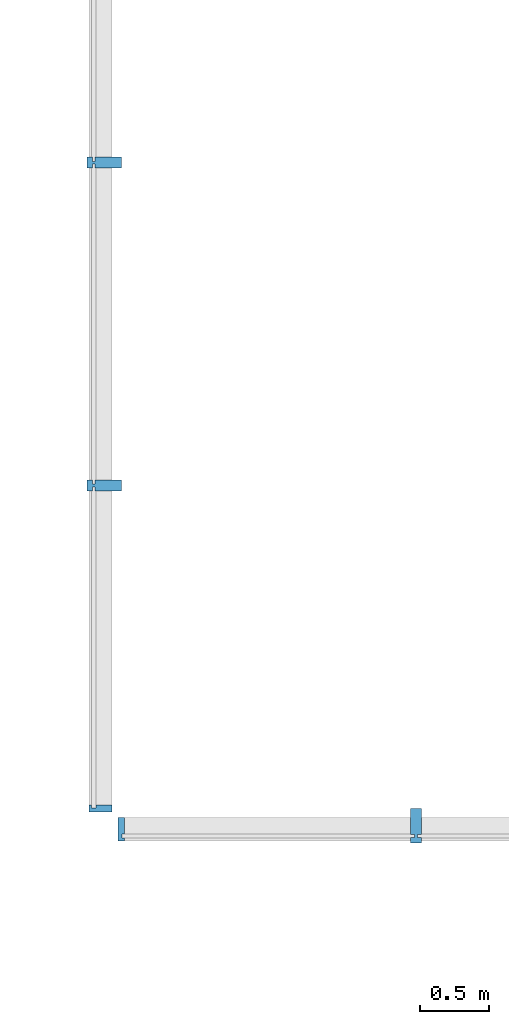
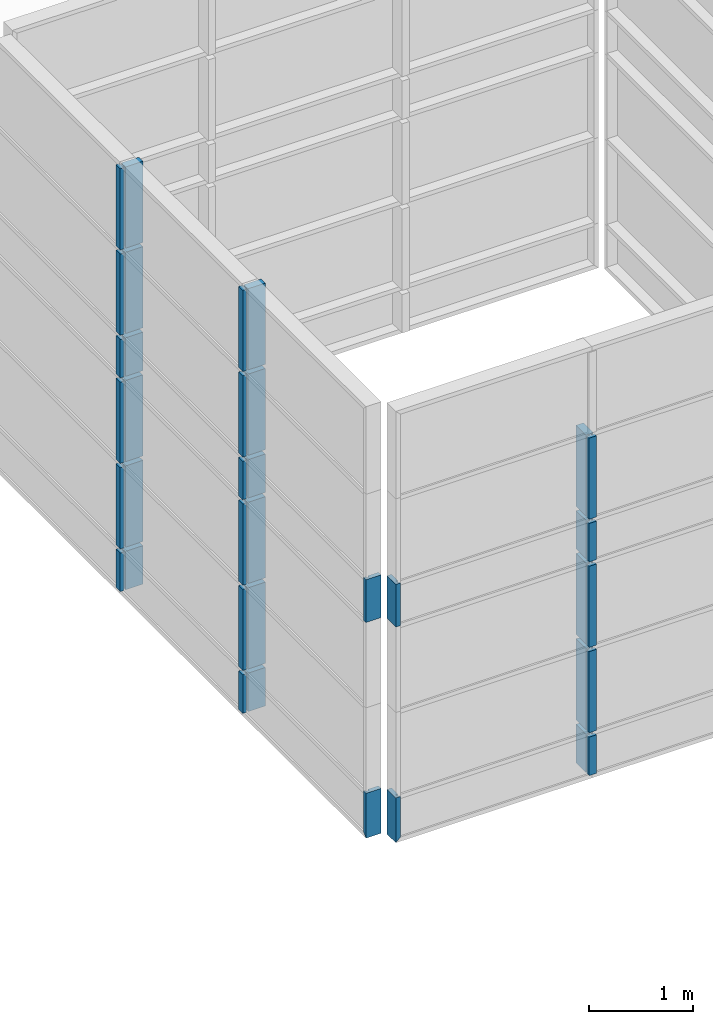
# One storey, part 13 of 19: 21 building element parts, 2 elements without a shape of their own.
"""IFC4 building model written with IfcOpenShell, lengths in millimetres."""

from ifc_helpers import new_model, entity, si_unit, converted_unit, derived_unit, direction, frame, origin_with_axes, place, context, subcontext, project, spatial, triangles, material, element, aggregate, save


model = new_model("IFC4")

# Units and contexts
model_context = context("Model", 3, precision=1e-05, world=origin_with_axes(), true_north=direction((0.0, 1.0)))
body_context = subcontext(model_context, "Body", "Model", "MODEL_VIEW")
ifc_project = project(units=[si_unit("LENGTHUNIT", "METRE", prefix="MILLI"), si_unit("AREAUNIT", "SQUARE_METRE"), si_unit("VOLUMEUNIT", "CUBIC_METRE"), converted_unit("PLANEANGLEUNIT", "DEGREE", entity("IfcLengthMeasure", 0.017453), si_unit("PLANEANGLEUNIT", "RADIAN"), dimensions=[0, 0, 0, 0, 0, 0, 0]), si_unit("SOLIDANGLEUNIT", "STERADIAN"), si_unit("MASSUNIT", "GRAM"), si_unit("TIMEUNIT", "SECOND"), si_unit("THERMODYNAMICTEMPERATUREUNIT", "DEGREE_CELSIUS"), si_unit("LUMINOUSINTENSITYUNIT", "LUMEN"), si_unit("POWERUNIT", "WATT"), derived_unit("THERMALTRANSMITTANCEUNIT", [(si_unit("POWERUNIT", "WATT"), 1), (si_unit("THERMODYNAMICTEMPERATUREUNIT", "KELVIN"), -1), (si_unit("AREAUNIT", "SQUARE_METRE"), -1)])], contexts=[model_context])

# Site, building, storey
site_placement = place(None, origin_with_axes())
site = spatial("IfcSite", under=ifc_project, at=site_placement, Name="Default Site", CompositionType="ELEMENT")
building_placement = place(site_placement, origin_with_axes())
building = spatial("IfcBuilding", under=site, at=building_placement, Name="Default Building", CompositionType="ELEMENT")
storey_placement = place(building_placement, frame((0.0, 0.0, 3000.0), z_axis=(0.0, 0.0, 1.0), x_axis=(1.0, 0.0, 0.0)))
storey = spatial("IfcBuildingStorey", under=building, at=storey_placement, Name="EG - Story", CompositionType="ELEMENT", Elevation=3000.0)

# Curtain wall, building element parts
curtain_wall_1_placement = place(storey_placement, origin_with_axes())
curtain_wall_1 = element("IfcCurtainWall", 1, at=curtain_wall_1_placement, inside=storey, Name="Fassade-011", PredefinedType="NOTDEFINED")
ifc_material = material(Name="Blech")
building_element_part_1_placement = place(curtain_wall_1_placement, frame((69381.391327, -43896.324358, 0.0), z_axis=(0.0, 0.0, 1.0), x_axis=(1.0, 0.0, 0.0)))
building_element_part_1 = element("IfcBuildingElementPart", 2, at=building_element_part_1_placement, material=ifc_material, Name="Blech", PredefinedType="NOTDEFINED", context=body_context, shape_type="Tessellation", body=[
    triangles([(200.0, -1135.324, 475.0), (10.0, -1135.324, 475.0), (200.0, -1215.324, 475.0), (10.0, -1165.324, 475.0), (10.0, -1185.324, 475.0), (-9.999, -1165.324, 475.0), (-9.999, -1185.324, 475.0), (-9.999, -1215.324, 475.0), (-9.999, -1135.324, 475.0), (-49.999, -1135.324, 475.0), (-49.999, -1215.324, 475.0), (10.0, -1215.324, 475.0), (10.0, -1185.324, 25.0), (10.0, -1215.324, 25.0), (200.0, -1215.324, 25.0), (200.0, -1135.324, 25.0), (10.0, -1135.324, 25.0), (10.0, -1165.324, 25.0), (-9.999, -1165.324, 25.0), (-9.999, -1135.324, 25.0), (-49.999, -1135.324, 25.0), (-49.999, -1215.324, 25.0), (-9.999, -1215.324, 25.0), (-9.999, -1185.324, 25.0)], [[1, 2, 3], [3, 2, 4], [3, 4, 5], [5, 4, 6], [5, 6, 7], [8, 9, 10], [8, 10, 11], [3, 5, 12], [12, 5, 13], [12, 13, 14], [12, 14, 15], [12, 15, 3], [3, 15, 16], [3, 16, 1], [2, 1, 16], [2, 16, 17], [2, 17, 18], [2, 18, 4], [4, 18, 19], [4, 19, 6], [9, 6, 19], [9, 19, 20], [20, 21, 10], [20, 10, 9], [10, 21, 22], [10, 22, 11], [23, 8, 11], [23, 11, 22], [7, 8, 23], [7, 23, 24], [5, 7, 24], [5, 24, 13], [15, 14, 16], [16, 14, 13], [16, 13, 18], [18, 13, 24], [18, 24, 19], [20, 23, 22], [20, 22, 21], [16, 18, 17]], closed=False),
])
building_element_part_2_placement = place(curtain_wall_1_placement, frame((69381.391327, -43896.324358, 0.0), z_axis=(0.0, 0.0, 1.0), x_axis=(1.0, 0.0, 0.0)))
building_element_part_2 = element("IfcBuildingElementPart", 3, at=building_element_part_2_placement, material=ifc_material, Name="Blech", PredefinedType="NOTDEFINED", context=body_context, shape_type="Tessellation", body=[
    triangles([(15.0, -5851.623, 500.0), (133.0, -5851.623, 500.0), (15.0, -5871.623, 500.0), (133.0, -5901.623, 500.0), (-14.999, -5871.623, 500.0), (-34.999, -5901.623, 500.0), (-14.999, -5851.623, 500.0), (-34.999, -5851.623, 500.0), (15.0, -5871.623, 5.0), (-14.999, -5871.623, 5.0), (-14.999, -5851.623, 25.0), (-34.999, -5851.623, 25.0), (-34.999, -5901.623, -24.999), (133.0, -5901.623, -24.999), (133.0, -5851.623, 25.0), (15.0, -5851.623, 25.0)], [[1, 2, 3], [3, 2, 4], [3, 4, 5], [5, 4, 6], [5, 6, 7], [7, 6, 8], [5, 3, 9], [5, 9, 10], [11, 7, 5], [11, 5, 10], [7, 11, 12], [7, 12, 8], [6, 8, 12], [6, 12, 13], [4, 6, 13], [4, 13, 14], [2, 4, 14], [2, 14, 15], [16, 1, 2], [16, 2, 15], [3, 1, 16], [3, 16, 9], [16, 15, 9], [9, 15, 14], [9, 14, 10], [10, 14, 13], [10, 13, 12], [10, 12, 11]], closed=False),
])
building_element_part_3_placement = place(curtain_wall_1_placement, frame((69381.391327, -43896.324358, 0.0), z_axis=(0.0, 0.0, 1.0), x_axis=(1.0, 0.0, 0.0)))
building_element_part_3 = element("IfcBuildingElementPart", 4, at=building_element_part_3_placement, material=ifc_material, Name="Blech", PredefinedType="NOTDEFINED", context=body_context, shape_type="Tessellation", body=[
    triangles([(200.0, -3485.973, 475.0), (10.0, -3485.973, 475.0), (200.0, -3565.973, 475.0), (10.0, -3515.973, 475.0), (10.0, -3535.973, 475.0), (-9.999, -3515.973, 475.0), (-9.999, -3535.973, 475.0), (-9.999, -3565.973, 475.0), (-9.999, -3485.973, 475.0), (-49.999, -3485.973, 475.0), (-49.999, -3565.973, 475.0), (10.0, -3565.973, 475.0), (10.0, -3535.973, 25.0), (10.0, -3565.973, 25.0), (200.0, -3565.973, 25.0), (200.0, -3485.973, 25.0), (10.0, -3485.973, 25.0), (10.0, -3515.973, 25.0), (-9.999, -3515.973, 25.0), (-9.999, -3485.973, 25.0), (-49.999, -3485.973, 25.0), (-49.999, -3565.973, 25.0), (-9.999, -3565.973, 25.0), (-9.999, -3535.973, 25.0)], [[1, 2, 3], [3, 2, 4], [3, 4, 5], [5, 4, 6], [5, 6, 7], [8, 9, 10], [8, 10, 11], [3, 5, 12], [12, 5, 13], [12, 13, 14], [12, 14, 15], [12, 15, 3], [3, 15, 16], [3, 16, 1], [2, 1, 16], [2, 16, 17], [2, 17, 18], [2, 18, 4], [4, 18, 19], [4, 19, 6], [9, 6, 19], [9, 19, 20], [20, 21, 10], [20, 10, 9], [10, 21, 22], [10, 22, 11], [23, 8, 11], [23, 11, 22], [7, 8, 23], [7, 23, 24], [5, 7, 24], [5, 24, 13], [15, 14, 16], [16, 14, 13], [16, 13, 18], [18, 13, 24], [18, 24, 19], [20, 23, 22], [20, 22, 21], [16, 18, 17]], closed=False),
])
building_element_part_4_placement = place(curtain_wall_1_placement, frame((69381.391327, -43896.324358, 0.0), z_axis=(0.0, 0.0, 1.0), x_axis=(1.0, 0.0, 0.0)))
building_element_part_4 = element("IfcBuildingElementPart", 5, at=building_element_part_4_placement, material=ifc_material, Name="Blech", PredefinedType="NOTDEFINED", context=body_context, shape_type="Tessellation", body=[
    triangles([(200.0, -1135.324, 1475.0), (10.0, -1135.324, 1475.0), (200.0, -1215.324, 1475.0), (10.0, -1165.324, 1475.0), (10.0, -1185.324, 1475.0), (-9.999, -1165.324, 1475.0), (-9.999, -1185.324, 1475.0), (-9.999, -1215.324, 1475.0), (-9.999, -1135.324, 1475.0), (-49.999, -1135.324, 1475.0), (-49.999, -1215.324, 1475.0), (10.0, -1215.324, 1475.0), (10.0, -1185.324, 525.0), (10.0, -1215.324, 525.0), (200.0, -1215.324, 525.0), (200.0, -1135.324, 525.0), (10.0, -1135.324, 525.0), (10.0, -1165.324, 525.0), (-9.999, -1165.324, 525.0), (-9.999, -1135.324, 525.0), (-49.999, -1135.324, 525.0), (-49.999, -1215.324, 525.0), (-9.999, -1215.324, 525.0), (-9.999, -1185.324, 525.0)], [[1, 2, 3], [3, 2, 4], [3, 4, 5], [5, 4, 6], [5, 6, 7], [8, 9, 10], [8, 10, 11], [3, 5, 12], [12, 5, 13], [12, 13, 14], [12, 14, 15], [12, 15, 3], [3, 15, 16], [3, 16, 1], [2, 1, 16], [2, 16, 17], [2, 17, 18], [2, 18, 4], [4, 18, 19], [4, 19, 6], [9, 6, 19], [9, 19, 20], [20, 21, 10], [20, 10, 9], [10, 21, 22], [10, 22, 11], [23, 8, 11], [23, 11, 22], [7, 8, 23], [7, 23, 24], [5, 7, 24], [5, 24, 13], [15, 14, 16], [16, 14, 13], [16, 13, 18], [18, 13, 24], [18, 24, 19], [20, 23, 22], [20, 22, 21], [16, 18, 17]], closed=False),
])
building_element_part_5_placement = place(curtain_wall_1_placement, frame((69381.391327, -43896.324358, 0.0), z_axis=(0.0, 0.0, 1.0), x_axis=(1.0, 0.0, 0.0)))
building_element_part_5 = element("IfcBuildingElementPart", 6, at=building_element_part_5_placement, material=ifc_material, Name="Blech", PredefinedType="NOTDEFINED", context=body_context, shape_type="Tessellation", body=[
    triangles([(200.0, -3485.973, 1475.0), (10.0, -3485.973, 1475.0), (200.0, -3565.973, 1475.0), (10.0, -3515.973, 1475.0), (10.0, -3535.973, 1475.0), (-9.999, -3515.973, 1475.0), (-9.999, -3535.973, 1475.0), (-9.999, -3565.973, 1475.0), (-9.999, -3485.973, 1475.0), (-49.999, -3485.973, 1475.0), (-49.999, -3565.973, 1475.0), (10.0, -3565.973, 1475.0), (10.0, -3535.973, 525.0), (10.0, -3565.973, 525.0), (200.0, -3565.973, 525.0), (200.0, -3485.973, 525.0), (10.0, -3485.973, 525.0), (10.0, -3515.973, 525.0), (-9.999, -3515.973, 525.0), (-9.999, -3485.973, 525.0), (-49.999, -3485.973, 525.0), (-49.999, -3565.973, 525.0), (-9.999, -3565.973, 525.0), (-9.999, -3535.973, 525.0)], [[1, 2, 3], [3, 2, 4], [3, 4, 5], [5, 4, 6], [5, 6, 7], [8, 9, 10], [8, 10, 11], [3, 5, 12], [12, 5, 13], [12, 13, 14], [12, 14, 15], [12, 15, 3], [3, 15, 16], [3, 16, 1], [2, 1, 16], [2, 16, 17], [2, 17, 18], [2, 18, 4], [4, 18, 19], [4, 19, 6], [9, 6, 19], [9, 19, 20], [20, 21, 10], [20, 10, 9], [10, 21, 22], [10, 22, 11], [23, 8, 11], [23, 11, 22], [7, 8, 23], [7, 23, 24], [5, 7, 24], [5, 24, 13], [15, 14, 16], [16, 14, 13], [16, 13, 18], [18, 13, 24], [18, 24, 19], [20, 23, 22], [20, 22, 21], [16, 18, 17]], closed=False),
])
building_element_part_6_placement = place(curtain_wall_1_placement, frame((69381.391327, -43896.324358, 0.0), z_axis=(0.0, 0.0, 1.0), x_axis=(1.0, 0.0, 0.0)))
building_element_part_6 = element("IfcBuildingElementPart", 7, at=building_element_part_6_placement, material=ifc_material, Name="Blech", PredefinedType="NOTDEFINED", context=body_context, shape_type="Tessellation", body=[
    triangles([(200.0, -1135.324, 2475.0), (10.0, -1135.324, 2475.0), (200.0, -1215.324, 2475.0), (10.0, -1165.324, 2475.0), (10.0, -1185.324, 2475.0), (-9.999, -1165.324, 2475.0), (-9.999, -1185.324, 2475.0), (-9.999, -1215.324, 2475.0), (-9.999, -1135.324, 2475.0), (-49.999, -1135.324, 2475.0), (-49.999, -1215.324, 2475.0), (10.0, -1215.324, 2475.0), (10.0, -1185.324, 1525.0), (10.0, -1215.324, 1525.0), (200.0, -1215.324, 1525.0), (200.0, -1135.324, 1525.0), (10.0, -1135.324, 1525.0), (10.0, -1165.324, 1525.0), (-9.999, -1165.324, 1525.0), (-9.999, -1135.324, 1525.0), (-49.999, -1135.324, 1525.0), (-49.999, -1215.324, 1525.0), (-9.999, -1215.324, 1525.0), (-9.999, -1185.324, 1525.0)], [[1, 2, 3], [3, 2, 4], [3, 4, 5], [5, 4, 6], [5, 6, 7], [8, 9, 10], [8, 10, 11], [3, 5, 12], [12, 5, 13], [12, 13, 14], [12, 14, 15], [12, 15, 3], [3, 15, 16], [3, 16, 1], [2, 1, 16], [2, 16, 17], [2, 17, 18], [2, 18, 4], [4, 18, 19], [4, 19, 6], [9, 6, 19], [9, 19, 20], [20, 21, 10], [20, 10, 9], [10, 21, 22], [10, 22, 11], [23, 8, 11], [23, 11, 22], [7, 8, 23], [7, 23, 24], [5, 7, 24], [5, 24, 13], [15, 14, 16], [16, 14, 13], [16, 13, 18], [18, 13, 24], [18, 24, 19], [20, 23, 22], [20, 22, 21], [16, 18, 17]], closed=False),
])
building_element_part_7_placement = place(curtain_wall_1_placement, frame((69381.391327, -43896.324358, 0.0), z_axis=(0.0, 0.0, 1.0), x_axis=(1.0, 0.0, 0.0)))
building_element_part_7 = element("IfcBuildingElementPart", 8, at=building_element_part_7_placement, material=ifc_material, Name="Blech", PredefinedType="NOTDEFINED", context=body_context, shape_type="Tessellation", body=[
    triangles([(200.0, -3485.973, 2475.0), (10.0, -3485.973, 2475.0), (200.0, -3565.973, 2475.0), (10.0, -3515.973, 2475.0), (10.0, -3535.973, 2475.0), (-9.999, -3515.973, 2475.0), (-9.999, -3535.973, 2475.0), (-9.999, -3565.973, 2475.0), (-9.999, -3485.973, 2475.0), (-49.999, -3485.973, 2475.0), (-49.999, -3565.973, 2475.0), (10.0, -3565.973, 2475.0), (10.0, -3535.973, 1525.0), (10.0, -3565.973, 1525.0), (200.0, -3565.973, 1525.0), (200.0, -3485.973, 1525.0), (10.0, -3485.973, 1525.0), (10.0, -3515.973, 1525.0), (-9.999, -3515.973, 1525.0), (-9.999, -3485.973, 1525.0), (-49.999, -3485.973, 1525.0), (-49.999, -3565.973, 1525.0), (-9.999, -3565.973, 1525.0), (-9.999, -3535.973, 1525.0)], [[1, 2, 3], [3, 2, 4], [3, 4, 5], [5, 4, 6], [5, 6, 7], [8, 9, 10], [8, 10, 11], [3, 5, 12], [12, 5, 13], [12, 13, 14], [12, 14, 15], [12, 15, 3], [3, 15, 16], [3, 16, 1], [2, 1, 16], [2, 16, 17], [2, 17, 18], [2, 18, 4], [4, 18, 19], [4, 19, 6], [9, 6, 19], [9, 19, 20], [20, 21, 10], [20, 10, 9], [10, 21, 22], [10, 22, 11], [23, 8, 11], [23, 11, 22], [7, 8, 23], [7, 23, 24], [5, 7, 24], [5, 24, 13], [15, 14, 16], [16, 14, 13], [16, 13, 18], [18, 13, 24], [18, 24, 19], [20, 23, 22], [20, 22, 21], [16, 18, 17]], closed=False),
])
building_element_part_8_placement = place(curtain_wall_1_placement, frame((69381.391327, -43896.324358, 0.0), z_axis=(0.0, 0.0, 1.0), x_axis=(1.0, 0.0, 0.0)))
building_element_part_8 = element("IfcBuildingElementPart", 9, at=building_element_part_8_placement, material=ifc_material, Name="Blech", PredefinedType="NOTDEFINED", context=body_context, shape_type="Tessellation", body=[
    triangles([(200.0, -1135.324, 2975.0), (10.0, -1135.324, 2975.0), (200.0, -1215.324, 2975.0), (10.0, -1165.324, 2975.0), (10.0, -1185.324, 2975.0), (-9.999, -1165.324, 2975.0), (-9.999, -1185.324, 2975.0), (-9.999, -1215.324, 2975.0), (-9.999, -1135.324, 2975.0), (-49.999, -1135.324, 2975.0), (-49.999, -1215.324, 2975.0), (10.0, -1215.324, 2975.0), (10.0, -1185.324, 2525.0), (10.0, -1215.324, 2525.0), (200.0, -1215.324, 2525.0), (200.0, -1135.324, 2525.0), (10.0, -1135.324, 2525.0), (10.0, -1165.324, 2525.0), (-9.999, -1165.324, 2525.0), (-9.999, -1135.324, 2525.0), (-49.999, -1135.324, 2525.0), (-49.999, -1215.324, 2525.0), (-9.999, -1215.324, 2525.0), (-9.999, -1185.324, 2525.0)], [[1, 2, 3], [3, 2, 4], [3, 4, 5], [5, 4, 6], [5, 6, 7], [8, 9, 10], [8, 10, 11], [3, 5, 12], [12, 5, 13], [12, 13, 14], [12, 14, 15], [12, 15, 3], [3, 15, 16], [3, 16, 1], [2, 1, 16], [2, 16, 17], [2, 17, 18], [2, 18, 4], [4, 18, 19], [4, 19, 6], [9, 6, 19], [9, 19, 20], [20, 21, 10], [20, 10, 9], [10, 21, 22], [10, 22, 11], [23, 8, 11], [23, 11, 22], [7, 8, 23], [7, 23, 24], [5, 7, 24], [5, 24, 13], [15, 14, 16], [16, 14, 13], [16, 13, 18], [18, 13, 24], [18, 24, 19], [20, 23, 22], [20, 22, 21], [16, 18, 17]], closed=False),
])
building_element_part_9_placement = place(curtain_wall_1_placement, frame((69381.391327, -43896.324358, 0.0), z_axis=(0.0, 0.0, 1.0), x_axis=(1.0, 0.0, 0.0)))
building_element_part_9 = element("IfcBuildingElementPart", 10, at=building_element_part_9_placement, material=ifc_material, Name="Blech", PredefinedType="NOTDEFINED", context=body_context, shape_type="Tessellation", body=[
    triangles([(15.0, -5851.623, 3000.0), (133.0, -5851.623, 3000.0), (15.0, -5871.623, 3000.0), (133.0, -5901.623, 3000.0), (-14.999, -5871.623, 3000.0), (-34.999, -5901.623, 3000.0), (-14.999, -5851.623, 3000.0), (-34.999, -5851.623, 3000.0), (15.0, -5871.623, 2500.0), (-14.999, -5871.623, 2500.0), (-14.999, -5851.623, 2500.0), (-34.999, -5851.623, 2500.0), (-34.999, -5901.623, 2500.0), (133.0, -5901.623, 2500.0), (133.0, -5851.623, 2500.0), (15.0, -5851.623, 2500.0)], [[1, 2, 3], [3, 2, 4], [3, 4, 5], [5, 4, 6], [5, 6, 7], [7, 6, 8], [5, 3, 9], [5, 9, 10], [11, 7, 5], [11, 5, 10], [7, 11, 12], [7, 12, 8], [13, 6, 8], [13, 8, 12], [14, 4, 6], [14, 6, 13], [15, 2, 4], [15, 4, 14], [16, 1, 2], [16, 2, 15], [3, 1, 16], [3, 16, 9], [16, 15, 9], [9, 15, 14], [9, 14, 10], [10, 14, 13], [10, 13, 11], [11, 13, 12]], closed=False),
])
building_element_part_10_placement = place(curtain_wall_1_placement, frame((69381.391327, -43896.324358, 0.0), z_axis=(0.0, 0.0, 1.0), x_axis=(1.0, 0.0, 0.0)))
building_element_part_10 = element("IfcBuildingElementPart", 11, at=building_element_part_10_placement, material=ifc_material, Name="Blech", PredefinedType="NOTDEFINED", context=body_context, shape_type="Tessellation", body=[
    triangles([(200.0, -3485.973, 2975.0), (10.0, -3485.973, 2975.0), (200.0, -3565.973, 2975.0), (10.0, -3515.973, 2975.0), (10.0, -3535.973, 2975.0), (-9.999, -3515.973, 2975.0), (-9.999, -3535.973, 2975.0), (-9.999, -3565.973, 2975.0), (-9.999, -3485.973, 2975.0), (-49.999, -3485.973, 2975.0), (-49.999, -3565.973, 2975.0), (10.0, -3565.973, 2975.0), (10.0, -3535.973, 2525.0), (10.0, -3565.973, 2525.0), (200.0, -3565.973, 2525.0), (200.0, -3485.973, 2525.0), (10.0, -3485.973, 2525.0), (10.0, -3515.973, 2525.0), (-9.999, -3515.973, 2525.0), (-9.999, -3485.973, 2525.0), (-49.999, -3485.973, 2525.0), (-49.999, -3565.973, 2525.0), (-9.999, -3565.973, 2525.0), (-9.999, -3535.973, 2525.0)], [[1, 2, 3], [3, 2, 4], [3, 4, 5], [5, 4, 6], [5, 6, 7], [8, 9, 10], [8, 10, 11], [3, 5, 12], [12, 5, 13], [12, 13, 14], [12, 14, 15], [12, 15, 3], [3, 15, 16], [3, 16, 1], [2, 1, 16], [2, 16, 17], [2, 17, 18], [2, 18, 4], [4, 18, 19], [4, 19, 6], [9, 6, 19], [9, 19, 20], [20, 21, 10], [20, 10, 9], [10, 21, 22], [10, 22, 11], [23, 8, 11], [23, 11, 22], [7, 8, 23], [7, 23, 24], [5, 7, 24], [5, 24, 13], [15, 14, 16], [16, 14, 13], [16, 13, 18], [18, 13, 24], [18, 24, 19], [20, 23, 22], [20, 22, 21], [16, 18, 17]], closed=False),
])
building_element_part_11_placement = place(curtain_wall_1_placement, frame((69381.391327, -43896.324358, 0.0), z_axis=(0.0, 0.0, 1.0), x_axis=(1.0, 0.0, 0.0)))
building_element_part_11 = element("IfcBuildingElementPart", 12, at=building_element_part_11_placement, material=ifc_material, Name="Blech", PredefinedType="NOTDEFINED", context=body_context, shape_type="Tessellation", body=[
    triangles([(200.0, -1135.324, 3975.0), (10.0, -1135.324, 3975.0), (200.0, -1215.324, 3975.0), (10.0, -1165.324, 3975.0), (10.0, -1185.324, 3975.0), (-9.999, -1165.324, 3975.0), (-9.999, -1185.324, 3975.0), (-9.999, -1215.324, 3975.0), (-9.999, -1135.324, 3975.0), (-49.999, -1135.324, 3975.0), (-49.999, -1215.324, 3975.0), (10.0, -1215.324, 3975.0), (10.0, -1185.324, 3025.0), (10.0, -1215.324, 3025.0), (200.0, -1215.324, 3025.0), (200.0, -1135.324, 3025.0), (10.0, -1135.324, 3025.0), (10.0, -1165.324, 3025.0), (-9.999, -1165.324, 3025.0), (-9.999, -1135.324, 3025.0), (-49.999, -1135.324, 3025.0), (-49.999, -1215.324, 3025.0), (-9.999, -1215.324, 3025.0), (-9.999, -1185.324, 3025.0)], [[1, 2, 3], [3, 2, 4], [3, 4, 5], [5, 4, 6], [5, 6, 7], [8, 9, 10], [8, 10, 11], [3, 5, 12], [12, 5, 13], [12, 13, 14], [12, 14, 15], [12, 15, 3], [3, 15, 16], [3, 16, 1], [2, 1, 16], [2, 16, 17], [2, 17, 18], [2, 18, 4], [4, 18, 19], [4, 19, 6], [9, 6, 19], [9, 19, 20], [20, 21, 10], [20, 10, 9], [10, 21, 22], [10, 22, 11], [23, 8, 11], [23, 11, 22], [7, 8, 23], [7, 23, 24], [5, 7, 24], [5, 24, 13], [15, 14, 16], [16, 14, 13], [16, 13, 18], [18, 13, 24], [18, 24, 19], [20, 23, 22], [20, 22, 21], [16, 18, 17]], closed=False),
])
building_element_part_12_placement = place(curtain_wall_1_placement, frame((69381.391327, -43896.324358, 0.0), z_axis=(0.0, 0.0, 1.0), x_axis=(1.0, 0.0, 0.0)))
building_element_part_12 = element("IfcBuildingElementPart", 13, at=building_element_part_12_placement, material=ifc_material, Name="Blech", PredefinedType="NOTDEFINED", context=body_context, shape_type="Tessellation", body=[
    triangles([(200.0, -3485.973, 3975.0), (10.0, -3485.973, 3975.0), (200.0, -3565.973, 3975.0), (10.0, -3515.973, 3975.0), (10.0, -3535.973, 3975.0), (-9.999, -3515.973, 3975.0), (-9.999, -3535.973, 3975.0), (-9.999, -3565.973, 3975.0), (-9.999, -3485.973, 3975.0), (-49.999, -3485.973, 3975.0), (-49.999, -3565.973, 3975.0), (10.0, -3565.973, 3975.0), (10.0, -3535.973, 3025.0), (10.0, -3565.973, 3025.0), (200.0, -3565.973, 3025.0), (200.0, -3485.973, 3025.0), (10.0, -3485.973, 3025.0), (10.0, -3515.973, 3025.0), (-9.999, -3515.973, 3025.0), (-9.999, -3485.973, 3025.0), (-49.999, -3485.973, 3025.0), (-49.999, -3565.973, 3025.0), (-9.999, -3565.973, 3025.0), (-9.999, -3535.973, 3025.0)], [[1, 2, 3], [3, 2, 4], [3, 4, 5], [5, 4, 6], [5, 6, 7], [8, 9, 10], [8, 10, 11], [3, 5, 12], [12, 5, 13], [12, 13, 14], [12, 14, 15], [12, 15, 3], [3, 15, 16], [3, 16, 1], [2, 1, 16], [2, 16, 17], [2, 17, 18], [2, 18, 4], [4, 18, 19], [4, 19, 6], [9, 6, 19], [9, 19, 20], [20, 21, 10], [20, 10, 9], [10, 21, 22], [10, 22, 11], [23, 8, 11], [23, 11, 22], [7, 8, 23], [7, 23, 24], [5, 7, 24], [5, 24, 13], [15, 14, 16], [16, 14, 13], [16, 13, 18], [18, 13, 24], [18, 24, 19], [20, 23, 22], [20, 22, 21], [16, 18, 17]], closed=False),
])
building_element_part_13_placement = place(curtain_wall_1_placement, frame((69381.391327, -43896.324358, 0.0), z_axis=(0.0, 0.0, 1.0), x_axis=(1.0, 0.0, 0.0)))
building_element_part_13 = element("IfcBuildingElementPart", 14, at=building_element_part_13_placement, material=ifc_material, Name="Blech", PredefinedType="NOTDEFINED", context=body_context, shape_type="Tessellation", body=[
    triangles([(200.0, -1135.324, 4975.0), (10.0, -1135.324, 4975.0), (200.0, -1215.324, 4975.0), (10.0, -1165.324, 4975.0), (10.0, -1185.324, 4975.0), (-9.999, -1165.324, 4975.0), (-9.999, -1185.324, 4975.0), (-9.999, -1215.324, 4975.0), (-9.999, -1135.324, 4975.0), (-49.999, -1135.324, 4975.0), (-49.999, -1215.324, 4975.0), (10.0, -1215.324, 4975.0), (10.0, -1185.324, 4025.0), (10.0, -1215.324, 4025.0), (200.0, -1215.324, 4025.0), (200.0, -1135.324, 4025.0), (10.0, -1135.324, 4025.0), (10.0, -1165.324, 4025.0), (-9.999, -1165.324, 4025.0), (-9.999, -1135.324, 4025.0), (-49.999, -1135.324, 4025.0), (-49.999, -1215.324, 4025.0), (-9.999, -1215.324, 4025.0), (-9.999, -1185.324, 4025.0)], [[1, 2, 3], [3, 2, 4], [3, 4, 5], [5, 4, 6], [5, 6, 7], [8, 9, 10], [8, 10, 11], [3, 5, 12], [12, 5, 13], [12, 13, 14], [12, 14, 15], [12, 15, 3], [3, 15, 16], [3, 16, 1], [2, 1, 16], [2, 16, 17], [2, 17, 18], [2, 18, 4], [4, 18, 19], [4, 19, 6], [9, 6, 19], [9, 19, 20], [20, 21, 10], [20, 10, 9], [10, 21, 22], [10, 22, 11], [23, 8, 11], [23, 11, 22], [7, 8, 23], [7, 23, 24], [5, 7, 24], [5, 24, 13], [15, 14, 16], [16, 14, 13], [16, 13, 18], [18, 13, 24], [18, 24, 19], [20, 23, 22], [20, 22, 21], [16, 18, 17]], closed=False),
])
building_element_part_14_placement = place(curtain_wall_1_placement, frame((69381.391327, -43896.324358, 0.0), z_axis=(0.0, 0.0, 1.0), x_axis=(1.0, 0.0, 0.0)))
building_element_part_14 = element("IfcBuildingElementPart", 15, at=building_element_part_14_placement, material=ifc_material, Name="Blech", PredefinedType="NOTDEFINED", context=body_context, shape_type="Tessellation", body=[
    triangles([(200.0, -3485.973, 4975.0), (10.0, -3485.973, 4975.0), (200.0, -3565.973, 4975.0), (10.0, -3515.973, 4975.0), (10.0, -3535.973, 4975.0), (-9.999, -3515.973, 4975.0), (-9.999, -3535.973, 4975.0), (-9.999, -3565.973, 4975.0), (-9.999, -3485.973, 4975.0), (-49.999, -3485.973, 4975.0), (-49.999, -3565.973, 4975.0), (10.0, -3565.973, 4975.0), (10.0, -3535.973, 4025.0), (10.0, -3565.973, 4025.0), (200.0, -3565.973, 4025.0), (200.0, -3485.973, 4025.0), (10.0, -3485.973, 4025.0), (10.0, -3515.973, 4025.0), (-9.999, -3515.973, 4025.0), (-9.999, -3485.973, 4025.0), (-49.999, -3485.973, 4025.0), (-49.999, -3565.973, 4025.0), (-9.999, -3565.973, 4025.0), (-9.999, -3535.973, 4025.0)], [[1, 2, 3], [3, 2, 4], [3, 4, 5], [5, 4, 6], [5, 6, 7], [8, 9, 10], [8, 10, 11], [3, 5, 12], [12, 5, 13], [12, 13, 14], [12, 14, 15], [12, 15, 3], [3, 15, 16], [3, 16, 1], [2, 1, 16], [2, 16, 17], [2, 17, 18], [2, 18, 4], [4, 18, 19], [4, 19, 6], [9, 6, 19], [9, 19, 20], [20, 21, 10], [20, 10, 9], [10, 21, 22], [10, 22, 11], [23, 8, 11], [23, 11, 22], [7, 8, 23], [7, 23, 24], [5, 7, 24], [5, 24, 13], [15, 14, 16], [16, 14, 13], [16, 13, 18], [18, 13, 24], [18, 24, 19], [20, 23, 22], [20, 22, 21], [16, 18, 17]], closed=False),
])
aggregate(curtain_wall_1, [building_element_part_1, building_element_part_2, building_element_part_3, building_element_part_4, building_element_part_5, building_element_part_6, building_element_part_7, building_element_part_8, building_element_part_9, building_element_part_10, building_element_part_11, building_element_part_12, building_element_part_13, building_element_part_14])

curtain_wall_2_placement = place(storey_placement, origin_with_axes())
curtain_wall_2 = element("IfcCurtainWall", 16, at=curtain_wall_2_placement, inside=storey, Name="Fassade-010", PredefinedType="NOTDEFINED")
building_element_part_15_placement = place(curtain_wall_2_placement, frame((70654.39916, -49972.947966, -4.5e-05), z_axis=(0.0, 0.0, 1.0), x_axis=(1.0, 0.0, 0.0)))
building_element_part_15 = element("IfcBuildingElementPart", 17, at=building_element_part_15_placement, material=ifc_material, Name="Blech", PredefinedType="NOTDEFINED", context=body_context, shape_type="Tessellation", body=[
    triangles([(-1048.007, 15.0, 500.0), (-1048.007, 133.0, 500.0), (-1068.007, 15.0, 500.0), (-1098.007, 133.0, 500.0), (-1068.007, -14.999, 500.0), (-1098.007, -34.999, 500.0), (-1048.007, -34.999, 500.0), (-1048.007, -14.999, 500.0), (-1068.007, 15.0, 5.0), (-1048.007, 15.0, 25.0), (-1048.007, 133.0, 25.0), (-1098.007, 133.0, -24.999), (-1098.007, -34.999, -24.999), (-1048.007, -34.999, 25.0), (-1048.007, -14.999, 25.0), (-1068.007, -14.999, 5.0)], [[1, 2, 3], [3, 2, 4], [3, 4, 5], [5, 4, 6], [5, 6, 7], [5, 7, 8], [3, 9, 10], [3, 10, 1], [10, 11, 2], [10, 2, 1], [2, 11, 12], [2, 12, 4], [4, 12, 13], [4, 13, 6], [6, 13, 14], [6, 14, 7], [8, 7, 14], [8, 14, 15], [15, 16, 5], [15, 5, 8], [5, 16, 9], [5, 9, 3], [16, 9, 12], [16, 12, 13], [16, 13, 14], [16, 14, 15], [11, 12, 9], [11, 9, 10]], closed=False),
])
building_element_part_16_placement = place(curtain_wall_2_placement, frame((70654.39916, -49972.947966, -4.5e-05), z_axis=(0.0, 0.0, 1.0), x_axis=(1.0, 0.0, 0.0)))
building_element_part_16 = element("IfcBuildingElementPart", 18, at=building_element_part_16_placement, material=ifc_material, Name="Blech", PredefinedType="NOTDEFINED", context=body_context, shape_type="Tessellation", body=[
    triangles([(1113.008, 10.0, 475.0), (1113.008, 200.0, 475.0), (1083.008, 10.0, 475.0), (1063.008, 10.0, 475.0), (1083.008, -9.999, 475.0), (1113.008, -49.999, 475.0), (1113.008, -9.999, 475.0), (1033.008, 200.0, 475.0), (1033.008, 10.0, 475.0), (1063.008, -9.999, 475.0), (1033.008, -9.999, 475.0), (1033.008, -49.999, 475.0), (1083.008, 10.0, 25.0), (1113.008, 10.0, 25.0), (1113.008, 200.0, 25.0), (1033.008, 200.0, 25.0), (1033.008, 10.0, 25.0), (1063.008, 10.0, 25.0), (1063.008, -9.999, 25.0), (1033.008, -9.999, 25.0), (1033.008, -49.999, 25.0), (1113.008, -49.999, 25.0), (1113.008, -9.999, 25.0), (1083.008, -9.999, 25.0)], [[1, 2, 3], [3, 2, 4], [3, 4, 5], [5, 4, 6], [5, 6, 7], [8, 9, 4], [8, 4, 2], [6, 4, 10], [6, 10, 11], [6, 11, 12], [1, 3, 13], [1, 13, 14], [1, 14, 15], [1, 15, 2], [2, 15, 16], [2, 16, 8], [9, 8, 16], [9, 16, 17], [9, 17, 18], [9, 18, 4], [4, 18, 19], [4, 19, 10], [11, 10, 19], [11, 19, 20], [20, 21, 12], [20, 12, 11], [12, 21, 22], [12, 22, 6], [23, 7, 6], [23, 6, 22], [5, 7, 23], [5, 23, 24], [3, 5, 24], [3, 24, 13], [23, 22, 24], [24, 22, 19], [24, 19, 13], [13, 19, 15], [13, 15, 14], [21, 20, 19], [21, 19, 22], [15, 19, 18], [15, 18, 17], [15, 17, 16]], closed=False),
])
building_element_part_17_placement = place(curtain_wall_2_placement, frame((70654.39916, -49972.947966, -4.5e-05), z_axis=(0.0, 0.0, 1.0), x_axis=(1.0, 0.0, 0.0)))
building_element_part_17 = element("IfcBuildingElementPart", 19, at=building_element_part_17_placement, material=ifc_material, Name="Blech", PredefinedType="NOTDEFINED", context=body_context, shape_type="Tessellation", body=[
    triangles([(1113.008, 10.0, 1475.0), (1113.008, 200.0, 1475.0), (1083.008, 10.0, 1475.0), (1063.008, 10.0, 1475.0), (1083.008, -9.999, 1475.0), (1113.008, -49.999, 1475.0), (1113.008, -9.999, 1475.0), (1033.008, 200.0, 1475.0), (1033.008, 10.0, 1475.0), (1063.008, -9.999, 1475.0), (1033.008, -9.999, 1475.0), (1033.008, -49.999, 1475.0), (1083.008, 10.0, 525.0), (1113.008, 10.0, 525.0), (1113.008, 200.0, 525.0), (1033.008, 200.0, 525.0), (1033.008, 10.0, 525.0), (1063.008, 10.0, 525.0), (1063.008, -9.999, 525.0), (1033.008, -9.999, 525.0), (1033.008, -49.999, 525.0), (1113.008, -49.999, 525.0), (1113.008, -9.999, 525.0), (1083.008, -9.999, 525.0)], [[1, 2, 3], [3, 2, 4], [3, 4, 5], [5, 4, 6], [5, 6, 7], [8, 9, 4], [8, 4, 2], [6, 4, 10], [6, 10, 11], [6, 11, 12], [1, 3, 13], [1, 13, 14], [1, 14, 15], [1, 15, 2], [2, 15, 16], [2, 16, 8], [9, 8, 16], [9, 16, 17], [9, 17, 18], [9, 18, 4], [4, 18, 19], [4, 19, 10], [11, 10, 19], [11, 19, 20], [20, 21, 12], [20, 12, 11], [12, 21, 22], [12, 22, 6], [23, 7, 6], [23, 6, 22], [5, 7, 23], [5, 23, 24], [3, 5, 24], [3, 24, 13], [23, 22, 24], [24, 22, 19], [24, 19, 13], [13, 19, 15], [13, 15, 14], [21, 20, 19], [21, 19, 22], [15, 19, 18], [15, 18, 17], [15, 17, 16]], closed=False),
])
building_element_part_18_placement = place(curtain_wall_2_placement, frame((70654.39916, -49972.947966, -4.5e-05), z_axis=(0.0, 0.0, 1.0), x_axis=(1.0, 0.0, 0.0)))
building_element_part_18 = element("IfcBuildingElementPart", 20, at=building_element_part_18_placement, material=ifc_material, Name="Blech", PredefinedType="NOTDEFINED", context=body_context, shape_type="Tessellation", body=[
    triangles([(1113.008, 10.0, 2475.0), (1113.008, 200.0, 2475.0), (1083.008, 10.0, 2475.0), (1063.008, 10.0, 2475.0), (1083.008, -9.999, 2475.0), (1113.008, -49.999, 2475.0), (1113.008, -9.999, 2475.0), (1033.008, 200.0, 2475.0), (1033.008, 10.0, 2475.0), (1063.008, -9.999, 2475.0), (1033.008, -9.999, 2475.0), (1033.008, -49.999, 2475.0), (1083.008, 10.0, 1525.0), (1113.008, 10.0, 1525.0), (1113.008, 200.0, 1525.0), (1033.008, 200.0, 1525.0), (1033.008, 10.0, 1525.0), (1063.008, 10.0, 1525.0), (1063.008, -9.999, 1525.0), (1033.008, -9.999, 1525.0), (1033.008, -49.999, 1525.0), (1113.008, -49.999, 1525.0), (1113.008, -9.999, 1525.0), (1083.008, -9.999, 1525.0)], [[1, 2, 3], [3, 2, 4], [3, 4, 5], [5, 4, 6], [5, 6, 7], [8, 9, 4], [8, 4, 2], [6, 4, 10], [6, 10, 11], [6, 11, 12], [1, 3, 13], [1, 13, 14], [1, 14, 15], [1, 15, 2], [2, 15, 16], [2, 16, 8], [9, 8, 16], [9, 16, 17], [9, 17, 18], [9, 18, 4], [4, 18, 19], [4, 19, 10], [11, 10, 19], [11, 19, 20], [20, 21, 12], [20, 12, 11], [12, 21, 22], [12, 22, 6], [23, 7, 6], [23, 6, 22], [5, 7, 23], [5, 23, 24], [3, 5, 24], [3, 24, 13], [23, 22, 24], [24, 22, 19], [24, 19, 13], [13, 19, 15], [13, 15, 14], [21, 20, 19], [21, 19, 22], [15, 19, 18], [15, 18, 17], [15, 17, 16]], closed=False),
])
building_element_part_19_placement = place(curtain_wall_2_placement, frame((70654.39916, -49972.947966, -4.5e-05), z_axis=(0.0, 0.0, 1.0), x_axis=(1.0, 0.0, 0.0)))
building_element_part_19 = element("IfcBuildingElementPart", 21, at=building_element_part_19_placement, material=ifc_material, Name="Blech", PredefinedType="NOTDEFINED", context=body_context, shape_type="Tessellation", body=[
    triangles([(-1048.007, 15.0, 3000.0), (-1048.007, 133.0, 3000.0), (-1068.007, 15.0, 3000.0), (-1098.007, 133.0, 3000.0), (-1068.007, -14.999, 3000.0), (-1098.007, -34.999, 3000.0), (-1048.007, -34.999, 3000.0), (-1048.007, -14.999, 3000.0), (-1068.007, 15.0, 2500.0), (-1048.007, 15.0, 2500.0), (-1048.007, 133.0, 2500.0), (-1098.007, 133.0, 2500.0), (-1098.007, -34.999, 2500.0), (-1048.007, -34.999, 2500.0), (-1048.007, -14.999, 2500.0), (-1068.007, -14.999, 2500.0)], [[1, 2, 3], [3, 2, 4], [3, 4, 5], [5, 4, 6], [5, 6, 7], [5, 7, 8], [3, 9, 10], [3, 10, 1], [10, 11, 2], [10, 2, 1], [11, 12, 4], [11, 4, 2], [12, 13, 6], [12, 6, 4], [13, 14, 7], [13, 7, 6], [8, 7, 14], [8, 14, 15], [15, 16, 5], [15, 5, 8], [5, 16, 9], [5, 9, 3], [16, 9, 12], [16, 12, 13], [16, 13, 14], [16, 14, 15], [11, 12, 9], [11, 9, 10]], closed=False),
])
building_element_part_20_placement = place(curtain_wall_2_placement, frame((70654.39916, -49972.947966, -4.5e-05), z_axis=(0.0, 0.0, 1.0), x_axis=(1.0, 0.0, 0.0)))
building_element_part_20 = element("IfcBuildingElementPart", 22, at=building_element_part_20_placement, material=ifc_material, Name="Blech", PredefinedType="NOTDEFINED", context=body_context, shape_type="Tessellation", body=[
    triangles([(1113.008, 10.0, 2975.0), (1113.008, 200.0, 2975.0), (1083.008, 10.0, 2975.0), (1063.008, 10.0, 2975.0), (1083.008, -9.999, 2975.0), (1113.008, -49.999, 2975.0), (1113.008, -9.999, 2975.0), (1033.008, 200.0, 2975.0), (1033.008, 10.0, 2975.0), (1063.008, -9.999, 2975.0), (1033.008, -9.999, 2975.0), (1033.008, -49.999, 2975.0), (1083.008, 10.0, 2525.0), (1113.008, 10.0, 2525.0), (1113.008, 200.0, 2525.0), (1033.008, 200.0, 2525.0), (1033.008, 10.0, 2525.0), (1063.008, 10.0, 2525.0), (1063.008, -9.999, 2525.0), (1033.008, -9.999, 2525.0), (1033.008, -49.999, 2525.0), (1113.008, -49.999, 2525.0), (1113.008, -9.999, 2525.0), (1083.008, -9.999, 2525.0)], [[1, 2, 3], [3, 2, 4], [3, 4, 5], [5, 4, 6], [5, 6, 7], [8, 9, 4], [8, 4, 2], [6, 4, 10], [6, 10, 11], [6, 11, 12], [1, 3, 13], [1, 13, 14], [1, 14, 15], [1, 15, 2], [2, 15, 16], [2, 16, 8], [9, 8, 16], [9, 16, 17], [9, 17, 18], [9, 18, 4], [4, 18, 19], [4, 19, 10], [11, 10, 19], [11, 19, 20], [20, 21, 12], [20, 12, 11], [12, 21, 22], [12, 22, 6], [23, 7, 6], [23, 6, 22], [5, 7, 23], [5, 23, 24], [3, 5, 24], [3, 24, 13], [23, 22, 24], [24, 22, 19], [24, 19, 13], [13, 19, 15], [13, 15, 14], [21, 20, 19], [21, 19, 22], [15, 19, 18], [15, 18, 17], [15, 17, 16]], closed=False),
])
building_element_part_21_placement = place(curtain_wall_2_placement, frame((70654.39916, -49972.947966, -4.5e-05), z_axis=(0.0, 0.0, 1.0), x_axis=(1.0, 0.0, 0.0)))
building_element_part_21 = element("IfcBuildingElementPart", 23, at=building_element_part_21_placement, material=ifc_material, Name="Blech", PredefinedType="NOTDEFINED", context=body_context, shape_type="Tessellation", body=[
    triangles([(1113.008, 10.0, 3975.0), (1113.008, 200.0, 3975.0), (1083.008, 10.0, 3975.0), (1063.008, 10.0, 3975.0), (1083.008, -9.999, 3975.0), (1113.008, -49.999, 3975.0), (1113.008, -9.999, 3975.0), (1033.008, 200.0, 3975.0), (1033.008, 10.0, 3975.0), (1063.008, -9.999, 3975.0), (1033.008, -9.999, 3975.0), (1033.008, -49.999, 3975.0), (1083.008, 10.0, 3025.0), (1113.008, 10.0, 3025.0), (1113.008, 200.0, 3025.0), (1033.008, 200.0, 3025.0), (1033.008, 10.0, 3025.0), (1063.008, 10.0, 3025.0), (1063.008, -9.999, 3025.0), (1033.008, -9.999, 3025.0), (1033.008, -49.999, 3025.0), (1113.008, -49.999, 3025.0), (1113.008, -9.999, 3025.0), (1083.008, -9.999, 3025.0)], [[1, 2, 3], [3, 2, 4], [3, 4, 5], [5, 4, 6], [5, 6, 7], [8, 9, 4], [8, 4, 2], [6, 4, 10], [6, 10, 11], [6, 11, 12], [1, 3, 13], [1, 13, 14], [1, 14, 15], [1, 15, 2], [2, 15, 16], [2, 16, 8], [9, 8, 16], [9, 16, 17], [9, 17, 18], [9, 18, 4], [4, 18, 19], [4, 19, 10], [11, 10, 19], [11, 19, 20], [20, 21, 12], [20, 12, 11], [12, 21, 22], [12, 22, 6], [23, 7, 6], [23, 6, 22], [5, 7, 23], [5, 23, 24], [3, 5, 24], [3, 24, 13], [23, 22, 24], [24, 22, 19], [24, 19, 13], [13, 19, 15], [13, 15, 14], [21, 20, 19], [21, 19, 22], [15, 19, 18], [15, 18, 17], [15, 17, 16]], closed=False),
])
aggregate(curtain_wall_2, [building_element_part_15, building_element_part_16, building_element_part_17, building_element_part_18, building_element_part_19, building_element_part_20, building_element_part_21])

save(model, "model.ifc")
